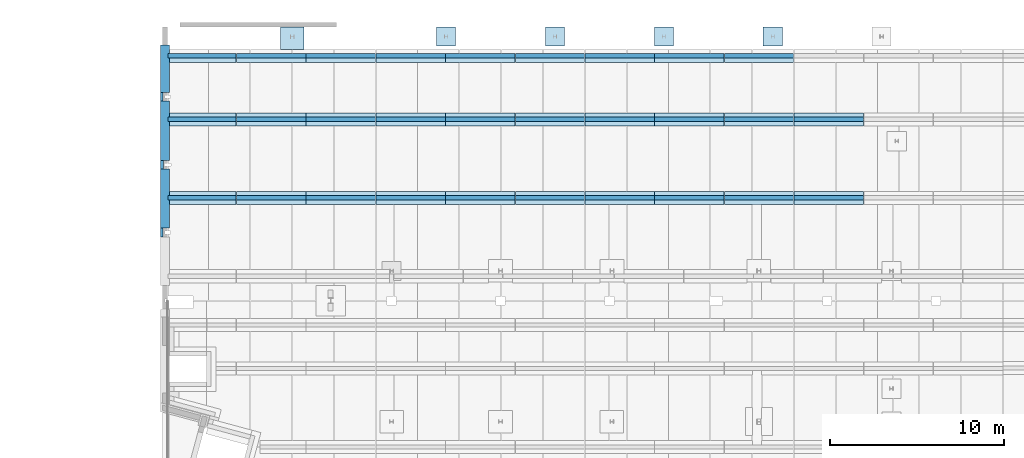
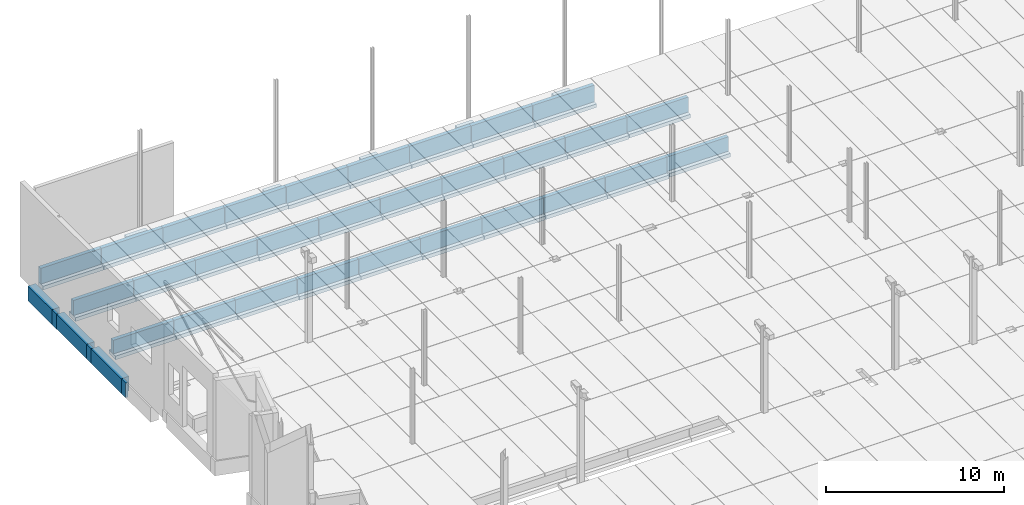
# One storey, part 13 of 59: 69 footings.
"""IFC2X3 building model written with IfcOpenShell, lengths in metres."""

from ifc_helpers import new_model, entity, si_unit, converted_unit, derived_unit, frame, frame_2d, origin, origin_with_axes, place, context, subcontext, project, spatial, rectangle, extrude, material, element, save


model = new_model("IFC2X3")

# Units and contexts
model_context = context("Model", 3, precision=1e-05, world=origin())
body_context = subcontext(model_context, "Body", "Model", "MODEL_VIEW")
ifc_project = project(units=[si_unit("LENGTHUNIT", "METRE"), si_unit("AREAUNIT", "SQUARE_METRE"), si_unit("VOLUMEUNIT", "CUBIC_METRE"), si_unit("MASSUNIT", "GRAM", prefix="KILO"), converted_unit("PLANEANGLEUNIT", "DEGREE", entity("IfcPlaneAngleMeasure", 0.0174532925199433), si_unit("PLANEANGLEUNIT", "RADIAN"), dimensions=[0, 0, 0, 0, 0, 0, 0]), derived_unit("THERMALTRANSMITTANCEUNIT", [(si_unit("POWERUNIT", "WATT"), 1), (si_unit("THERMODYNAMICTEMPERATUREUNIT", "KELVIN"), -1), (si_unit("LENGTHUNIT", "METRE"), -2)]), derived_unit("VOLUMETRICFLOWRATEUNIT", [(si_unit("LENGTHUNIT", "METRE"), 3), (converted_unit("TIMEUNIT", "hour", entity("IfcTimeMeasure", 3600.0), si_unit("TIMEUNIT", "SECOND"), dimensions=[0, 0, 1, 0, 0, 0, 0]), -1), (si_unit("LENGTHUNIT", "METRE"), -1)])], contexts=[model_context])

# Site, building, storey
site_placement = place(None, origin())
site = spatial("IfcSite", under=ifc_project, at=site_placement, Name="TWP_Speiseverteilzentrum SBW VZ II", CompositionType="ELEMENT")
building_placement = place(site_placement, origin())
building = spatial("IfcBuilding", under=site, at=building_placement, Name="Speiseverteilzentrum SBW VZ II", CompositionType="ELEMENT")
storey_placement = place(building_placement, frame((0.0, 0.0, 1.7307)))
storey = spatial("IfcBuildingStorey", under=building, at=storey_placement, Name="EG_Produktion_FFB", CompositionType="ELEMENT", Elevation=1.7307)

# Footings
ifc_material_1 = material(Name="Stahlbeton")
footing_1_placement = place(storey_placement, frame((43.825, 85.0000000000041, -1.8)))
element("IfcFooting", 1, at=footing_1_placement, inside=storey, material=ifc_material_1, Name="Stb.-Einzelfundament", ObjectType="COLUMN_FOUNDATION", PredefinedType="USERDEFINED", context=body_context, shape_type="SweptSolid", body=[
    extrude(rectangle(XDim=1.1, YDim=1.1, at=frame_2d((0.55, 0.55), x_axis=(1.0, 0.0))), origin_with_axes(), (0.0, 0.0, 1.0), 0.3),
])
ifc_material_2 = material(Name="Stahlbeton")
footing_2_placement = place(storey_placement, frame((37.575, 85.0000000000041, -1.8)))
element("IfcFooting", 2, at=footing_2_placement, inside=storey, material=ifc_material_2, Name="Stb.-Einzelfundament", ObjectType="COLUMN_FOUNDATION", PredefinedType="USERDEFINED", context=body_context, shape_type="SweptSolid", body=[
    extrude(rectangle(XDim=1.1, YDim=1.1, at=frame_2d((0.55, 0.55), x_axis=(1.0, 0.0))), origin_with_axes(), (0.0, 0.0, 1.0), 0.3),
])
ifc_material_3 = material(Name="Stahlbeton")
footing_3_placement = place(storey_placement, frame((31.325, 85.0000000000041, -1.8)))
element("IfcFooting", 3, at=footing_3_placement, inside=storey, material=ifc_material_3, Name="Stb.-Einzelfundament", ObjectType="COLUMN_FOUNDATION", PredefinedType="USERDEFINED", context=body_context, shape_type="SweptSolid", body=[
    extrude(rectangle(XDim=1.1, YDim=1.1, at=frame_2d((0.55, 0.55), x_axis=(1.0, 0.0))), origin_with_axes(), (0.0, 0.0, 1.0), 0.3),
])
ifc_material_4 = material(Name="Stahlbeton")
footing_4_placement = place(storey_placement, frame((25.075, 85.0000000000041, -1.8)))
element("IfcFooting", 4, at=footing_4_placement, inside=storey, material=ifc_material_4, Name="Stb.-Einzelfundament", ObjectType="COLUMN_FOUNDATION", PredefinedType="USERDEFINED", context=body_context, shape_type="SweptSolid", body=[
    extrude(rectangle(XDim=1.1, YDim=1.1, at=frame_2d((0.55, 0.55), x_axis=(1.0, 0.0))), origin_with_axes(), (0.0, 0.0, 1.0), 0.3),
])
ifc_material_5 = material(Name="Stahlbeton")
footing_5_placement = place(storey_placement, frame((9.38998437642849, 81.8540323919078, -2.9677), z_axis=(0.0, 0.0, 1.0), x_axis=(0.0, 1.0, 0.0)))
element("IfcFooting", 5, at=footing_5_placement, inside=storey, material=ifc_material_5, Name="Stb.-Streifenfundament", PredefinedType="STRIP_FOOTING", context=body_context, shape_type="SweptSolid", body=[
    extrude(rectangle(XDim=0.149984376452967, YDim=1.0, at=frame_2d((0.0749921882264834, 0.5), x_axis=(1.0, 0.0))), frame((0.0, 0.0, 0.0), z_axis=(1.0, 0.0, 0.0), x_axis=(0.0, 1.0, 0.0)), (0.0, 0.0, 1.0), 0.5),
])
ifc_material_6 = material(Name="Stahlbeton")
footing_6_placement = place(storey_placement, frame((9.73999999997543, 74.5540323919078, -2.9677), z_axis=(0.0, 0.0, 1.0), x_axis=(0.0, 1.0, 0.0)))
element("IfcFooting", 6, at=footing_6_placement, inside=storey, material=ifc_material_6, Name="Stb.-Streifenfundament", PredefinedType="STRIP_FOOTING", context=body_context, shape_type="SweptSolid", body=[
    extrude(rectangle(XDim=0.5, YDim=1.0, at=frame_2d((0.25, 0.5), x_axis=(1.0, 0.0))), frame((0.0, 0.0, 0.0), z_axis=(1.0, 0.0, 0.0), x_axis=(0.0, 1.0, 0.0)), (0.0, 0.0, 1.0), 3.39493784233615),
])
ifc_material_7 = material(Name="Stahlbeton")
footing_7_placement = place(storey_placement, frame((9.73999999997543, 78.4489702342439, -2.9677), z_axis=(0.0, 0.0, 1.0), x_axis=(0.0, 1.0, 0.0)))
element("IfcFooting", 7, at=footing_7_placement, inside=storey, material=ifc_material_7, Name="Stb.-Streifenfundament", PredefinedType="STRIP_FOOTING", context=body_context, shape_type="SweptSolid", body=[
    extrude(rectangle(XDim=0.5, YDim=1.0, at=frame_2d((0.25, 0.5), x_axis=(1.0, 0.0))), frame((0.0, 0.0, 0.0), z_axis=(1.0, 0.0, 0.0), x_axis=(0.0, 1.0, 0.0)), (0.0, 0.0, 1.0), 3.4050621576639),
])
ifc_material_8 = material(Name="Stahlbeton")
footing_8_placement = place(storey_placement, frame((9.3899843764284, 74.0540323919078, -2.9677), z_axis=(0.0, 0.0, 1.0), x_axis=(0.0, 1.0, 0.0)))
element("IfcFooting", 8, at=footing_8_placement, inside=storey, material=ifc_material_8, Name="Stb.-Streifenfundament", PredefinedType="STRIP_FOOTING", context=body_context, shape_type="SweptSolid", body=[
    extrude(rectangle(XDim=0.149984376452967, YDim=1.0, at=frame_2d((0.0749921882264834, 0.5), x_axis=(1.0, 0.0))), frame((0.0, 0.0, 0.0), z_axis=(1.0, 0.0, 0.0), x_axis=(0.0, 1.0, 0.0)), (0.0, 0.0, 1.0), 0.5),
])
ifc_material_9 = material(Name="Stahlbeton")
footing_9_placement = place(storey_placement, frame((9.39864114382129, 77.9489702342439, -2.9677), z_axis=(0.0, 0.0, 1.0), x_axis=(0.0, 1.0, 0.0)))
element("IfcFooting", 9, at=footing_9_placement, inside=storey, material=ifc_material_9, Name="Stb.-Streifenfundament", PredefinedType="STRIP_FOOTING", context=body_context, shape_type="SweptSolid", body=[
    extrude(rectangle(XDim=0.158641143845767, YDim=1.0, at=frame_2d((0.0793205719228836, 0.5), x_axis=(1.0, 0.0))), frame((0.0, 0.0, 0.0), z_axis=(1.0, 0.0, 0.0), x_axis=(0.0, 1.0, 0.0)), (0.0, 0.0, 1.0), 0.5),
])
ifc_material_10 = material(Name="Stahlbeton")
footing_10_placement = place(storey_placement, frame((9.73999999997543, 82.3540323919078, -2.9677), z_axis=(0.0, 0.0, 1.0), x_axis=(0.0, 1.0, 0.0)))
element("IfcFooting", 10, at=footing_10_placement, inside=storey, material=ifc_material_10, Name="Stb.-Streifenfundament", PredefinedType="STRIP_FOOTING", context=body_context, shape_type="SweptSolid", body=[
    extrude(rectangle(XDim=0.5, YDim=1.0, at=frame_2d((0.25, 0.5), x_axis=(1.0, 0.0))), frame((0.0, 0.0, 0.0), z_axis=(1.0, 0.0, 0.0), x_axis=(0.0, 1.0, 0.0)), (0.0, 0.0, 1.0), 2.70870495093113),
])
ifc_material_11 = material(Name="Stahlbetonfertigteil")
footing_11_placement = place(storey_placement, frame((41.5999999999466, 84.325000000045, -1.6)))
element("IfcFooting", 11, at=footing_11_placement, inside=storey, material=ifc_material_11, Name="Stahlbetonfertigteilfundament", PredefinedType="STRIP_FOOTING", context=body_context, shape_type="SweptSolid", body=[
    extrude(rectangle(XDim=0.25, YDim=1.13, at=frame_2d((0.125, 0.565), x_axis=(1.0, 0.0))), frame((0.0, 0.0, 0.0), z_axis=(1.0, 0.0, 0.0), x_axis=(0.0, 1.0, 0.0)), (0.0, 0.0, 1.0), 3.98),
])
ifc_material_12 = material(Name="Stahlbetonfertigteil")
footing_12_placement = place(storey_placement, frame((41.5999999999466, 84.075000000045, -1.85)))
element("IfcFooting", 12, at=footing_12_placement, inside=storey, material=ifc_material_12, Name="Stahlbetonfertigteilfundament", PredefinedType="STRIP_FOOTING", context=body_context, shape_type="SweptSolid", body=[
    extrude(rectangle(XDim=0.5, YDim=0.25, at=frame_2d((0.25, 0.125), x_axis=(1.0, 0.0))), frame((0.0, 0.0, 0.0), z_axis=(1.0, 0.0, 0.0), x_axis=(0.0, 1.0, 0.0)), (0.0, 0.0, 1.0), 3.98),
])
ifc_material_13 = material(Name="Stahlbetonfertigteil")
footing_13_placement = place(storey_placement, frame((37.5999999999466, 84.325000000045, -1.6)))
element("IfcFooting", 13, at=footing_13_placement, inside=storey, material=ifc_material_13, Name="Stahlbetonfertigteilfundament", PredefinedType="STRIP_FOOTING", context=body_context, shape_type="SweptSolid", body=[
    extrude(rectangle(XDim=0.25, YDim=1.13, at=frame_2d((0.125, 0.565), x_axis=(1.0, 0.0))), frame((0.0, 0.0, 0.0), z_axis=(1.0, 0.0, 0.0), x_axis=(0.0, 1.0, 0.0)), (0.0, 0.0, 1.0), 3.98),
])
ifc_material_14 = material(Name="Stahlbetonfertigteil")
footing_14_placement = place(storey_placement, frame((37.5999999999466, 84.075000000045, -1.85)))
element("IfcFooting", 14, at=footing_14_placement, inside=storey, material=ifc_material_14, Name="Stahlbetonfertigteilfundament", PredefinedType="STRIP_FOOTING", context=body_context, shape_type="SweptSolid", body=[
    extrude(rectangle(XDim=0.5, YDim=0.25, at=frame_2d((0.25, 0.125), x_axis=(1.0, 0.0))), frame((0.0, 0.0, 0.0), z_axis=(1.0, 0.0, 0.0), x_axis=(0.0, 1.0, 0.0)), (0.0, 0.0, 1.0), 3.98),
])
ifc_material_15 = material(Name="Stahlbetonfertigteil")
footing_15_placement = place(storey_placement, frame((33.5999999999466, 84.325000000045, -1.6)))
element("IfcFooting", 15, at=footing_15_placement, inside=storey, material=ifc_material_15, Name="Stahlbetonfertigteilfundament", PredefinedType="STRIP_FOOTING", context=body_context, shape_type="SweptSolid", body=[
    extrude(rectangle(XDim=0.25, YDim=1.13, at=frame_2d((0.125, 0.565), x_axis=(1.0, 0.0))), frame((0.0, 0.0, 0.0), z_axis=(1.0, 0.0, 0.0), x_axis=(0.0, 1.0, 0.0)), (0.0, 0.0, 1.0), 3.98),
])
ifc_material_16 = material(Name="Stahlbetonfertigteil")
footing_16_placement = place(storey_placement, frame((33.5999999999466, 84.075000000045, -1.85)))
element("IfcFooting", 16, at=footing_16_placement, inside=storey, material=ifc_material_16, Name="Stahlbetonfertigteilfundament", PredefinedType="STRIP_FOOTING", context=body_context, shape_type="SweptSolid", body=[
    extrude(rectangle(XDim=0.5, YDim=0.25, at=frame_2d((0.25, 0.125), x_axis=(1.0, 0.0))), frame((0.0, 0.0, 0.0), z_axis=(1.0, 0.0, 0.0), x_axis=(0.0, 1.0, 0.0)), (0.0, 0.0, 1.0), 3.98),
])
ifc_material_17 = material(Name="Stahlbetonfertigteil")
footing_17_placement = place(storey_placement, frame((29.5999999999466, 84.325000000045, -1.6)))
element("IfcFooting", 17, at=footing_17_placement, inside=storey, material=ifc_material_17, Name="Stahlbetonfertigteilfundament", PredefinedType="STRIP_FOOTING", context=body_context, shape_type="SweptSolid", body=[
    extrude(rectangle(XDim=0.25, YDim=1.13, at=frame_2d((0.125, 0.565), x_axis=(1.0, 0.0))), frame((0.0, 0.0, 0.0), z_axis=(1.0, 0.0, 0.0), x_axis=(0.0, 1.0, 0.0)), (0.0, 0.0, 1.0), 3.98),
])
ifc_material_18 = material(Name="Stahlbetonfertigteil")
footing_18_placement = place(storey_placement, frame((29.5999999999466, 84.075000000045, -1.85)))
element("IfcFooting", 18, at=footing_18_placement, inside=storey, material=ifc_material_18, Name="Stahlbetonfertigteilfundament", PredefinedType="STRIP_FOOTING", context=body_context, shape_type="SweptSolid", body=[
    extrude(rectangle(XDim=0.5, YDim=0.25, at=frame_2d((0.25, 0.125), x_axis=(1.0, 0.0))), frame((0.0, 0.0, 0.0), z_axis=(1.0, 0.0, 0.0), x_axis=(0.0, 1.0, 0.0)), (0.0, 0.0, 1.0), 3.98),
])
ifc_material_19 = material(Name="Stahlbetonfertigteil")
footing_19_placement = place(storey_placement, frame((25.5999999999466, 84.325000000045, -1.6)))
element("IfcFooting", 19, at=footing_19_placement, inside=storey, material=ifc_material_19, Name="Stahlbetonfertigteilfundament", PredefinedType="STRIP_FOOTING", context=body_context, shape_type="SweptSolid", body=[
    extrude(rectangle(XDim=0.25, YDim=1.13, at=frame_2d((0.125, 0.565), x_axis=(1.0, 0.0))), frame((0.0, 0.0, 0.0), z_axis=(1.0, 0.0, 0.0), x_axis=(0.0, 1.0, 0.0)), (0.0, 0.0, 1.0), 3.98),
])
ifc_material_20 = material(Name="Stahlbetonfertigteil")
footing_20_placement = place(storey_placement, frame((25.5999999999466, 84.075000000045, -1.85)))
element("IfcFooting", 20, at=footing_20_placement, inside=storey, material=ifc_material_20, Name="Stahlbetonfertigteilfundament", PredefinedType="STRIP_FOOTING", context=body_context, shape_type="SweptSolid", body=[
    extrude(rectangle(XDim=0.5, YDim=0.25, at=frame_2d((0.25, 0.125), x_axis=(1.0, 0.0))), frame((0.0, 0.0, 0.0), z_axis=(1.0, 0.0, 0.0), x_axis=(0.0, 1.0, 0.0)), (0.0, 0.0, 1.0), 3.98),
])
ifc_material_21 = material(Name="Stahlbetonfertigteil")
footing_21_placement = place(storey_placement, frame((21.5999999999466, 84.325000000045, -1.55)))
element("IfcFooting", 21, at=footing_21_placement, inside=storey, material=ifc_material_21, Name="Stahlbetonfertigteilfundament", PredefinedType="STRIP_FOOTING", context=body_context, shape_type="SweptSolid", body=[
    extrude(rectangle(XDim=0.25, YDim=1.08, at=frame_2d((0.125, 0.54), x_axis=(1.0, 0.0))), frame((0.0, 0.0, 0.0), z_axis=(1.0, 0.0, 0.0), x_axis=(0.0, 1.0, 0.0)), (0.0, 0.0, 1.0), 3.98),
])
ifc_material_22 = material(Name="Stahlbetonfertigteil")
footing_22_placement = place(storey_placement, frame((21.5999999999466, 84.075000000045, -1.8)))
element("IfcFooting", 22, at=footing_22_placement, inside=storey, material=ifc_material_22, Name="Stahlbetonfertigteilfundament", PredefinedType="STRIP_FOOTING", context=body_context, shape_type="SweptSolid", body=[
    extrude(rectangle(XDim=0.5, YDim=0.25, at=frame_2d((0.25, 0.125), x_axis=(1.0, 0.0))), frame((0.0, 0.0, 0.0), z_axis=(1.0, 0.0, 0.0), x_axis=(0.0, 1.0, 0.0)), (0.0, 0.0, 1.0), 3.98),
])
ifc_material_23 = material(Name="Stahlbetonfertigteil")
footing_23_placement = place(storey_placement, frame((17.5999999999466, 84.325000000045, -1.55)))
element("IfcFooting", 23, at=footing_23_placement, inside=storey, material=ifc_material_23, Name="Stahlbetonfertigteilfundament", PredefinedType="STRIP_FOOTING", context=body_context, shape_type="SweptSolid", body=[
    extrude(rectangle(XDim=0.25, YDim=1.08, at=frame_2d((0.125, 0.54), x_axis=(1.0, 0.0))), frame((0.0, 0.0, 0.0), z_axis=(1.0, 0.0, 0.0), x_axis=(0.0, 1.0, 0.0)), (0.0, 0.0, 1.0), 3.98),
])
ifc_material_24 = material(Name="Stahlbetonfertigteil")
footing_24_placement = place(storey_placement, frame((17.5999999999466, 84.075000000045, -1.8)))
element("IfcFooting", 24, at=footing_24_placement, inside=storey, material=ifc_material_24, Name="Stahlbetonfertigteilfundament", PredefinedType="STRIP_FOOTING", context=body_context, shape_type="SweptSolid", body=[
    extrude(rectangle(XDim=0.5, YDim=0.25, at=frame_2d((0.25, 0.125), x_axis=(1.0, 0.0))), frame((0.0, 0.0, 0.0), z_axis=(1.0, 0.0, 0.0), x_axis=(0.0, 1.0, 0.0)), (0.0, 0.0, 1.0), 3.98),
])
ifc_material_25 = material(Name="Stahlbetonfertigteil")
footing_25_placement = place(storey_placement, frame((13.5999999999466, 84.325000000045, -1.55)))
element("IfcFooting", 25, at=footing_25_placement, inside=storey, material=ifc_material_25, Name="Stahlbetonfertigteilfundament", PredefinedType="STRIP_FOOTING", context=body_context, shape_type="SweptSolid", body=[
    extrude(rectangle(XDim=0.25, YDim=1.08, at=frame_2d((0.125, 0.54), x_axis=(1.0, 0.0))), frame((0.0, 0.0, 0.0), z_axis=(1.0, 0.0, 0.0), x_axis=(0.0, 1.0, 0.0)), (0.0, 0.0, 1.0), 3.98),
])
ifc_material_26 = material(Name="Stahlbetonfertigteil")
footing_26_placement = place(storey_placement, frame((13.5999999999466, 84.075000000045, -1.8)))
element("IfcFooting", 26, at=footing_26_placement, inside=storey, material=ifc_material_26, Name="Stahlbetonfertigteilfundament", PredefinedType="STRIP_FOOTING", context=body_context, shape_type="SweptSolid", body=[
    extrude(rectangle(XDim=0.5, YDim=0.25, at=frame_2d((0.25, 0.125), x_axis=(1.0, 0.0))), frame((0.0, 0.0, 0.0), z_axis=(1.0, 0.0, 0.0), x_axis=(0.0, 1.0, 0.0)), (0.0, 0.0, 1.0), 3.98),
])
ifc_material_27 = material(Name="Stahlbetonfertigteil")
footing_27_placement = place(storey_placement, frame((9.65999999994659, 84.075000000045, -1.8)))
element("IfcFooting", 27, at=footing_27_placement, inside=storey, material=ifc_material_27, Name="Stahlbetonfertigteilfundament", PredefinedType="STRIP_FOOTING", context=body_context, shape_type="SweptSolid", body=[
    extrude(rectangle(XDim=0.5, YDim=0.25, at=frame_2d((0.25, 0.125), x_axis=(1.0, 0.0))), frame((0.0, 0.0, 0.0), z_axis=(1.0, 0.0, 0.0), x_axis=(0.0, 1.0, 0.0)), (0.0, 0.0, 1.0), 3.92),
])
ifc_material_28 = material(Name="Stahlbetonfertigteil")
footing_28_placement = place(storey_placement, frame((9.65999999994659, 84.325000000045, -1.55)))
element("IfcFooting", 28, at=footing_28_placement, inside=storey, material=ifc_material_28, Name="Stahlbetonfertigteilfundament", PredefinedType="STRIP_FOOTING", context=body_context, shape_type="SweptSolid", body=[
    extrude(rectangle(XDim=0.25, YDim=1.08, at=frame_2d((0.125, 0.54), x_axis=(1.0, 0.0))), frame((0.0, 0.0, 0.0), z_axis=(1.0, 0.0, 0.0), x_axis=(0.0, 1.0, 0.0)), (0.0, 0.0, 1.0), 3.92),
])
ifc_material_29 = material(Name="Stahlbetonfertigteil")
footing_29_placement = place(storey_placement, frame((45.5999999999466, 75.9251031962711, -1.7)))
element("IfcFooting", 29, at=footing_29_placement, inside=storey, material=ifc_material_29, Name="Stahlbetonfertigteilfundament", PredefinedType="STRIP_FOOTING", context=body_context, shape_type="SweptSolid", body=[
    extrude(rectangle(XDim=0.75, YDim=0.25, at=frame_2d((0.375, 0.125), x_axis=(1.0, 0.0))), frame((0.0, 0.0, 0.0), z_axis=(1.0, 0.0, 0.0), x_axis=(0.0, 1.0, 0.0)), (0.0, 0.0, 1.0), 3.98),
])
ifc_material_30 = material(Name="Stahlbetonfertigteil")
footing_30_placement = place(storey_placement, frame((45.5999999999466, 76.1751031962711, -1.45)))
element("IfcFooting", 30, at=footing_30_placement, inside=storey, material=ifc_material_30, Name="Stahlbetonfertigteilfundament", PredefinedType="STRIP_FOOTING", context=body_context, shape_type="SweptSolid", body=[
    extrude(rectangle(XDim=0.25, YDim=0.98, at=frame_2d((0.125, 0.49), x_axis=(1.0, 0.0))), frame((0.0, 0.0, 0.0), z_axis=(1.0, 0.0, 0.0), x_axis=(0.0, 1.0, 0.0)), (0.0, 0.0, 1.0), 3.98),
])
ifc_material_31 = material(Name="Stahlbetonfertigteil")
footing_31_placement = place(storey_placement, frame((37.5999999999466, 76.1751031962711, -1.55)))
element("IfcFooting", 31, at=footing_31_placement, inside=storey, material=ifc_material_31, Name="Stahlbetonfertigteilfundament", PredefinedType="STRIP_FOOTING", context=body_context, shape_type="SweptSolid", body=[
    extrude(rectangle(XDim=0.25, YDim=1.08, at=frame_2d((0.125, 0.54), x_axis=(1.0, 0.0))), frame((0.0, 0.0, 0.0), z_axis=(1.0, 0.0, 0.0), x_axis=(0.0, 1.0, 0.0)), (0.0, 0.0, 1.0), 3.98),
])
ifc_material_32 = material(Name="Stahlbetonfertigteil")
footing_32_placement = place(storey_placement, frame((33.5999999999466, 76.1751031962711, -1.55)))
element("IfcFooting", 32, at=footing_32_placement, inside=storey, material=ifc_material_32, Name="Stahlbetonfertigteilfundament", PredefinedType="STRIP_FOOTING", context=body_context, shape_type="SweptSolid", body=[
    extrude(rectangle(XDim=0.25, YDim=1.08, at=frame_2d((0.125, 0.54), x_axis=(1.0, 0.0))), frame((0.0, 0.0, 0.0), z_axis=(1.0, 0.0, 0.0), x_axis=(0.0, 1.0, 0.0)), (0.0, 0.0, 1.0), 3.98),
])
ifc_material_33 = material(Name="Stahlbetonfertigteil")
footing_33_placement = place(storey_placement, frame((41.5999999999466, 76.1751031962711, -1.55)))
element("IfcFooting", 33, at=footing_33_placement, inside=storey, material=ifc_material_33, Name="Stahlbetonfertigteilfundament", PredefinedType="STRIP_FOOTING", context=body_context, shape_type="SweptSolid", body=[
    extrude(rectangle(XDim=0.25, YDim=1.08, at=frame_2d((0.125, 0.54), x_axis=(1.0, 0.0))), frame((0.0, 0.0, 0.0), z_axis=(1.0, 0.0, 0.0), x_axis=(0.0, 1.0, 0.0)), (0.0, 0.0, 1.0), 3.98),
])
ifc_material_34 = material(Name="Stahlbetonfertigteil")
footing_34_placement = place(storey_placement, frame((29.5999999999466, 76.1751031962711, -1.55)))
element("IfcFooting", 34, at=footing_34_placement, inside=storey, material=ifc_material_34, Name="Stahlbetonfertigteilfundament", PredefinedType="STRIP_FOOTING", context=body_context, shape_type="SweptSolid", body=[
    extrude(rectangle(XDim=0.25, YDim=1.08, at=frame_2d((0.125, 0.54), x_axis=(1.0, 0.0))), frame((0.0, 0.0, 0.0), z_axis=(1.0, 0.0, 0.0), x_axis=(0.0, 1.0, 0.0)), (0.0, 0.0, 1.0), 3.98),
])
ifc_material_35 = material(Name="Stahlbetonfertigteil")
footing_35_placement = place(storey_placement, frame((41.5999999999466, 75.9251031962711, -1.8)))
element("IfcFooting", 35, at=footing_35_placement, inside=storey, material=ifc_material_35, Name="Stahlbetonfertigteilfundament", PredefinedType="STRIP_FOOTING", context=body_context, shape_type="SweptSolid", body=[
    extrude(rectangle(XDim=0.75, YDim=0.25, at=frame_2d((0.375, 0.125), x_axis=(1.0, 0.0))), frame((0.0, 0.0, 0.0), z_axis=(1.0, 0.0, 0.0), x_axis=(0.0, 1.0, 0.0)), (0.0, 0.0, 1.0), 3.98),
])
ifc_material_36 = material(Name="Stahlbetonfertigteil")
footing_36_placement = place(storey_placement, frame((37.5999999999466, 75.9251031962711, -1.8)))
element("IfcFooting", 36, at=footing_36_placement, inside=storey, material=ifc_material_36, Name="Stahlbetonfertigteilfundament", PredefinedType="STRIP_FOOTING", context=body_context, shape_type="SweptSolid", body=[
    extrude(rectangle(XDim=0.75, YDim=0.25, at=frame_2d((0.375, 0.125), x_axis=(1.0, 0.0))), frame((0.0, 0.0, 0.0), z_axis=(1.0, 0.0, 0.0), x_axis=(0.0, 1.0, 0.0)), (0.0, 0.0, 1.0), 3.98),
])
ifc_material_37 = material(Name="Stahlbetonfertigteil")
footing_37_placement = place(storey_placement, frame((33.5999999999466, 75.9251031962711, -1.8)))
element("IfcFooting", 37, at=footing_37_placement, inside=storey, material=ifc_material_37, Name="Stahlbetonfertigteilfundament", PredefinedType="STRIP_FOOTING", context=body_context, shape_type="SweptSolid", body=[
    extrude(rectangle(XDim=0.75, YDim=0.25, at=frame_2d((0.375, 0.125), x_axis=(1.0, 0.0))), frame((0.0, 0.0, 0.0), z_axis=(1.0, 0.0, 0.0), x_axis=(0.0, 1.0, 0.0)), (0.0, 0.0, 1.0), 3.98),
])
ifc_material_38 = material(Name="Stahlbetonfertigteil")
footing_38_placement = place(storey_placement, frame((29.5999999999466, 75.9251031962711, -1.8)))
element("IfcFooting", 38, at=footing_38_placement, inside=storey, material=ifc_material_38, Name="Stahlbetonfertigteilfundament", PredefinedType="STRIP_FOOTING", context=body_context, shape_type="SweptSolid", body=[
    extrude(rectangle(XDim=0.75, YDim=0.25, at=frame_2d((0.375, 0.125), x_axis=(1.0, 0.0))), frame((0.0, 0.0, 0.0), z_axis=(1.0, 0.0, 0.0), x_axis=(0.0, 1.0, 0.0)), (0.0, 0.0, 1.0), 3.98),
])
ifc_material_39 = material(Name="Stahlbetonfertigteil")
footing_39_placement = place(storey_placement, frame((21.5999999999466, 76.1751031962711, -1.5)))
element("IfcFooting", 39, at=footing_39_placement, inside=storey, material=ifc_material_39, Name="Stahlbetonfertigteilfundament", PredefinedType="STRIP_FOOTING", context=body_context, shape_type="SweptSolid", body=[
    extrude(rectangle(XDim=0.25, YDim=1.03, at=frame_2d((0.125, 0.515), x_axis=(1.0, 0.0))), frame((0.0, 0.0, 0.0), z_axis=(1.0, 0.0, 0.0), x_axis=(0.0, 1.0, 0.0)), (0.0, 0.0, 1.0), 3.98),
])
ifc_material_40 = material(Name="Stahlbetonfertigteil")
footing_40_placement = place(storey_placement, frame((25.5999999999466, 76.1751031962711, -1.5)))
element("IfcFooting", 40, at=footing_40_placement, inside=storey, material=ifc_material_40, Name="Stahlbetonfertigteilfundament", PredefinedType="STRIP_FOOTING", context=body_context, shape_type="SweptSolid", body=[
    extrude(rectangle(XDim=0.25, YDim=1.03, at=frame_2d((0.125, 0.515), x_axis=(1.0, 0.0))), frame((0.0, 0.0, 0.0), z_axis=(1.0, 0.0, 0.0), x_axis=(0.0, 1.0, 0.0)), (0.0, 0.0, 1.0), 3.98),
])
ifc_material_41 = material(Name="Stahlbetonfertigteil")
footing_41_placement = place(storey_placement, frame((25.5999999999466, 75.9251031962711, -1.75)))
element("IfcFooting", 41, at=footing_41_placement, inside=storey, material=ifc_material_41, Name="Stahlbetonfertigteilfundament", PredefinedType="STRIP_FOOTING", context=body_context, shape_type="SweptSolid", body=[
    extrude(rectangle(XDim=0.75, YDim=0.25, at=frame_2d((0.375, 0.125), x_axis=(1.0, 0.0))), frame((0.0, 0.0, 0.0), z_axis=(1.0, 0.0, 0.0), x_axis=(0.0, 1.0, 0.0)), (0.0, 0.0, 1.0), 3.98),
])
ifc_material_42 = material(Name="Stahlbetonfertigteil")
footing_42_placement = place(storey_placement, frame((21.5999999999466, 75.9251031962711, -1.75)))
element("IfcFooting", 42, at=footing_42_placement, inside=storey, material=ifc_material_42, Name="Stahlbetonfertigteilfundament", PredefinedType="STRIP_FOOTING", context=body_context, shape_type="SweptSolid", body=[
    extrude(rectangle(XDim=0.75, YDim=0.25, at=frame_2d((0.375, 0.125), x_axis=(1.0, 0.0))), frame((0.0, 0.0, 0.0), z_axis=(1.0, 0.0, 0.0), x_axis=(0.0, 1.0, 0.0)), (0.0, 0.0, 1.0), 3.98),
])
ifc_material_43 = material(Name="Stahlbetonfertigteil")
footing_43_placement = place(storey_placement, frame((17.5999999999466, 76.1751031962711, -1.45)))
element("IfcFooting", 43, at=footing_43_placement, inside=storey, material=ifc_material_43, Name="Stahlbetonfertigteilfundament", PredefinedType="STRIP_FOOTING", context=body_context, shape_type="SweptSolid", body=[
    extrude(rectangle(XDim=0.25, YDim=0.98, at=frame_2d((0.125, 0.49), x_axis=(1.0, 0.0))), frame((0.0, 0.0, 0.0), z_axis=(1.0, 0.0, 0.0), x_axis=(0.0, 1.0, 0.0)), (0.0, 0.0, 1.0), 3.98),
])
ifc_material_44 = material(Name="Stahlbetonfertigteil")
footing_44_placement = place(storey_placement, frame((17.5999999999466, 75.9251031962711, -1.7)))
element("IfcFooting", 44, at=footing_44_placement, inside=storey, material=ifc_material_44, Name="Stahlbetonfertigteilfundament", PredefinedType="STRIP_FOOTING", context=body_context, shape_type="SweptSolid", body=[
    extrude(rectangle(XDim=0.75, YDim=0.25, at=frame_2d((0.375, 0.125), x_axis=(1.0, 0.0))), frame((0.0, 0.0, 0.0), z_axis=(1.0, 0.0, 0.0), x_axis=(0.0, 1.0, 0.0)), (0.0, 0.0, 1.0), 3.98),
])
ifc_material_45 = material(Name="Stahlbetonfertigteil")
footing_45_placement = place(storey_placement, frame((13.5999999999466, 75.9251031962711, -1.65)))
element("IfcFooting", 45, at=footing_45_placement, inside=storey, material=ifc_material_45, Name="Stahlbetonfertigteilfundament", PredefinedType="STRIP_FOOTING", context=body_context, shape_type="SweptSolid", body=[
    extrude(rectangle(XDim=0.75, YDim=0.25, at=frame_2d((0.375, 0.125), x_axis=(1.0, 0.0))), frame((0.0, 0.0, 0.0), z_axis=(1.0, 0.0, 0.0), x_axis=(0.0, 1.0, 0.0)), (0.0, 0.0, 1.0), 3.98),
])
ifc_material_46 = material(Name="Stahlbetonfertigteil")
footing_46_placement = place(storey_placement, frame((13.5999999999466, 76.1751031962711, -1.4)))
element("IfcFooting", 46, at=footing_46_placement, inside=storey, material=ifc_material_46, Name="Stahlbetonfertigteilfundament", PredefinedType="STRIP_FOOTING", context=body_context, shape_type="SweptSolid", body=[
    extrude(rectangle(XDim=0.25, YDim=0.93, at=frame_2d((0.125, 0.465), x_axis=(1.0, 0.0))), frame((0.0, 0.0, 0.0), z_axis=(1.0, 0.0, 0.0), x_axis=(0.0, 1.0, 0.0)), (0.0, 0.0, 1.0), 3.98),
])
ifc_material_47 = material(Name="Stahlbetonfertigteil")
footing_47_placement = place(storey_placement, frame((45.5999999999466, 80.6751031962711, -1.5)))
element("IfcFooting", 47, at=footing_47_placement, inside=storey, material=ifc_material_47, Name="Stahlbetonfertigteilfundament", PredefinedType="STRIP_FOOTING", context=body_context, shape_type="SweptSolid", body=[
    extrude(rectangle(XDim=0.25, YDim=1.03, at=frame_2d((0.125, 0.515), x_axis=(1.0, 0.0))), frame((0.0, 0.0, 0.0), z_axis=(1.0, 0.0, 0.0), x_axis=(0.0, 1.0, 0.0)), (0.0, 0.0, 1.0), 3.98),
])
ifc_material_48 = material(Name="Stahlbetonfertigteil")
footing_48_placement = place(storey_placement, frame((13.5999999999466, 80.4251031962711, -1.75)))
element("IfcFooting", 48, at=footing_48_placement, inside=storey, material=ifc_material_48, Name="Stahlbetonfertigteilfundament", PredefinedType="STRIP_FOOTING", context=body_context, shape_type="SweptSolid", body=[
    extrude(rectangle(XDim=0.75, YDim=0.25, at=frame_2d((0.375, 0.125), x_axis=(1.0, 0.0))), frame((0.0, 0.0, 0.0), z_axis=(1.0, 0.0, 0.0), x_axis=(0.0, 1.0, 0.0)), (0.0, 0.0, 1.0), 3.98),
])
ifc_material_49 = material(Name="Stahlbetonfertigteil")
footing_49_placement = place(storey_placement, frame((45.5999999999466, 80.4251031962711, -1.75)))
element("IfcFooting", 49, at=footing_49_placement, inside=storey, material=ifc_material_49, Name="Stahlbetonfertigteilfundament", PredefinedType="STRIP_FOOTING", context=body_context, shape_type="SweptSolid", body=[
    extrude(rectangle(XDim=0.75, YDim=0.25, at=frame_2d((0.375, 0.125), x_axis=(1.0, 0.0))), frame((0.0, 0.0, 0.0), z_axis=(1.0, 0.0, 0.0), x_axis=(0.0, 1.0, 0.0)), (0.0, 0.0, 1.0), 3.98),
])
ifc_material_50 = material(Name="Stahlbetonfertigteil")
footing_50_placement = place(storey_placement, frame((17.5999999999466, 80.4251031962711, -1.75)))
element("IfcFooting", 50, at=footing_50_placement, inside=storey, material=ifc_material_50, Name="Stahlbetonfertigteilfundament", PredefinedType="STRIP_FOOTING", context=body_context, shape_type="SweptSolid", body=[
    extrude(rectangle(XDim=0.75, YDim=0.25, at=frame_2d((0.375, 0.125), x_axis=(1.0, 0.0))), frame((0.0, 0.0, 0.0), z_axis=(1.0, 0.0, 0.0), x_axis=(0.0, 1.0, 0.0)), (0.0, 0.0, 1.0), 3.98),
])
ifc_material_51 = material(Name="Stahlbetonfertigteil")
footing_51_placement = place(storey_placement, frame((41.5999999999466, 80.6751031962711, -1.55)))
element("IfcFooting", 51, at=footing_51_placement, inside=storey, material=ifc_material_51, Name="Stahlbetonfertigteilfundament", PredefinedType="STRIP_FOOTING", context=body_context, shape_type="SweptSolid", body=[
    extrude(rectangle(XDim=0.25, YDim=1.08, at=frame_2d((0.125, 0.54), x_axis=(1.0, 0.0))), frame((0.0, 0.0, 0.0), z_axis=(1.0, 0.0, 0.0), x_axis=(0.0, 1.0, 0.0)), (0.0, 0.0, 1.0), 3.98),
])
ifc_material_52 = material(Name="Stahlbetonfertigteil")
footing_52_placement = place(storey_placement, frame((41.5999999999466, 80.4251031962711, -1.8)))
element("IfcFooting", 52, at=footing_52_placement, inside=storey, material=ifc_material_52, Name="Stahlbetonfertigteilfundament", PredefinedType="STRIP_FOOTING", context=body_context, shape_type="SweptSolid", body=[
    extrude(rectangle(XDim=0.75, YDim=0.25, at=frame_2d((0.375, 0.125), x_axis=(1.0, 0.0))), frame((0.0, 0.0, 0.0), z_axis=(1.0, 0.0, 0.0), x_axis=(0.0, 1.0, 0.0)), (0.0, 0.0, 1.0), 3.98),
])
ifc_material_53 = material(Name="Stahlbetonfertigteil")
footing_53_placement = place(storey_placement, frame((33.5999999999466, 80.6751031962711, -1.55)))
element("IfcFooting", 53, at=footing_53_placement, inside=storey, material=ifc_material_53, Name="Stahlbetonfertigteilfundament", PredefinedType="STRIP_FOOTING", context=body_context, shape_type="SweptSolid", body=[
    extrude(rectangle(XDim=0.25, YDim=1.08, at=frame_2d((0.125, 0.54), x_axis=(1.0, 0.0))), frame((0.0, 0.0, 0.0), z_axis=(1.0, 0.0, 0.0), x_axis=(0.0, 1.0, 0.0)), (0.0, 0.0, 1.0), 3.98),
])
ifc_material_54 = material(Name="Stahlbetonfertigteil")
footing_54_placement = place(storey_placement, frame((37.5999999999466, 80.6751031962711, -1.55)))
element("IfcFooting", 54, at=footing_54_placement, inside=storey, material=ifc_material_54, Name="Stahlbetonfertigteilfundament", PredefinedType="STRIP_FOOTING", context=body_context, shape_type="SweptSolid", body=[
    extrude(rectangle(XDim=0.25, YDim=1.08, at=frame_2d((0.125, 0.54), x_axis=(1.0, 0.0))), frame((0.0, 0.0, 0.0), z_axis=(1.0, 0.0, 0.0), x_axis=(0.0, 1.0, 0.0)), (0.0, 0.0, 1.0), 3.98),
])
ifc_material_55 = material(Name="Stahlbetonfertigteil")
footing_55_placement = place(storey_placement, frame((37.5999999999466, 80.4251031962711, -1.8)))
element("IfcFooting", 55, at=footing_55_placement, inside=storey, material=ifc_material_55, Name="Stahlbetonfertigteilfundament", PredefinedType="STRIP_FOOTING", context=body_context, shape_type="SweptSolid", body=[
    extrude(rectangle(XDim=0.75, YDim=0.25, at=frame_2d((0.375, 0.125), x_axis=(1.0, 0.0))), frame((0.0, 0.0, 0.0), z_axis=(1.0, 0.0, 0.0), x_axis=(0.0, 1.0, 0.0)), (0.0, 0.0, 1.0), 3.98),
])
ifc_material_56 = material(Name="Stahlbetonfertigteil")
footing_56_placement = place(storey_placement, frame((33.5999999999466, 80.4251031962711, -1.8)))
element("IfcFooting", 56, at=footing_56_placement, inside=storey, material=ifc_material_56, Name="Stahlbetonfertigteilfundament", PredefinedType="STRIP_FOOTING", context=body_context, shape_type="SweptSolid", body=[
    extrude(rectangle(XDim=0.75, YDim=0.25, at=frame_2d((0.375, 0.125), x_axis=(1.0, 0.0))), frame((0.0, 0.0, 0.0), z_axis=(1.0, 0.0, 0.0), x_axis=(0.0, 1.0, 0.0)), (0.0, 0.0, 1.0), 3.98),
])
ifc_material_57 = material(Name="Stahlbetonfertigteil")
footing_57_placement = place(storey_placement, frame((29.5999999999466, 80.6751031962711, -1.55)))
element("IfcFooting", 57, at=footing_57_placement, inside=storey, material=ifc_material_57, Name="Stahlbetonfertigteilfundament", PredefinedType="STRIP_FOOTING", context=body_context, shape_type="SweptSolid", body=[
    extrude(rectangle(XDim=0.25, YDim=1.08, at=frame_2d((0.125, 0.54), x_axis=(1.0, 0.0))), frame((0.0, 0.0, 0.0), z_axis=(1.0, 0.0, 0.0), x_axis=(0.0, 1.0, 0.0)), (0.0, 0.0, 1.0), 3.98),
])
ifc_material_58 = material(Name="Stahlbetonfertigteil")
footing_58_placement = place(storey_placement, frame((29.5999999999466, 80.4251031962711, -1.8)))
element("IfcFooting", 58, at=footing_58_placement, inside=storey, material=ifc_material_58, Name="Stahlbetonfertigteilfundament", PredefinedType="STRIP_FOOTING", context=body_context, shape_type="SweptSolid", body=[
    extrude(rectangle(XDim=0.75, YDim=0.25, at=frame_2d((0.375, 0.125), x_axis=(1.0, 0.0))), frame((0.0, 0.0, 0.0), z_axis=(1.0, 0.0, 0.0), x_axis=(0.0, 1.0, 0.0)), (0.0, 0.0, 1.0), 3.98),
])
ifc_material_59 = material(Name="Stahlbetonfertigteil")
footing_59_placement = place(storey_placement, frame((21.5999999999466, 80.6751031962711, -1.55)))
element("IfcFooting", 59, at=footing_59_placement, inside=storey, material=ifc_material_59, Name="Stahlbetonfertigteilfundament", PredefinedType="STRIP_FOOTING", context=body_context, shape_type="SweptSolid", body=[
    extrude(rectangle(XDim=0.25, YDim=1.08, at=frame_2d((0.125, 0.54), x_axis=(1.0, 0.0))), frame((0.0, 0.0, 0.0), z_axis=(1.0, 0.0, 0.0), x_axis=(0.0, 1.0, 0.0)), (0.0, 0.0, 1.0), 3.98),
])
ifc_material_60 = material(Name="Stahlbetonfertigteil")
footing_60_placement = place(storey_placement, frame((25.5999999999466, 80.6751031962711, -1.55)))
element("IfcFooting", 60, at=footing_60_placement, inside=storey, material=ifc_material_60, Name="Stahlbetonfertigteilfundament", PredefinedType="STRIP_FOOTING", context=body_context, shape_type="SweptSolid", body=[
    extrude(rectangle(XDim=0.25, YDim=1.08, at=frame_2d((0.125, 0.54), x_axis=(1.0, 0.0))), frame((0.0, 0.0, 0.0), z_axis=(1.0, 0.0, 0.0), x_axis=(0.0, 1.0, 0.0)), (0.0, 0.0, 1.0), 3.98),
])
ifc_material_61 = material(Name="Stahlbetonfertigteil")
footing_61_placement = place(storey_placement, frame((21.5999999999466, 80.4251031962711, -1.8)))
element("IfcFooting", 61, at=footing_61_placement, inside=storey, material=ifc_material_61, Name="Stahlbetonfertigteilfundament", PredefinedType="STRIP_FOOTING", context=body_context, shape_type="SweptSolid", body=[
    extrude(rectangle(XDim=0.75, YDim=0.25, at=frame_2d((0.375, 0.125), x_axis=(1.0, 0.0))), frame((0.0, 0.0, 0.0), z_axis=(1.0, 0.0, 0.0), x_axis=(0.0, 1.0, 0.0)), (0.0, 0.0, 1.0), 3.98),
])
ifc_material_62 = material(Name="Stahlbetonfertigteil")
footing_62_placement = place(storey_placement, frame((25.5999999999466, 80.4251031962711, -1.8)))
element("IfcFooting", 62, at=footing_62_placement, inside=storey, material=ifc_material_62, Name="Stahlbetonfertigteilfundament", PredefinedType="STRIP_FOOTING", context=body_context, shape_type="SweptSolid", body=[
    extrude(rectangle(XDim=0.75, YDim=0.25, at=frame_2d((0.375, 0.125), x_axis=(1.0, 0.0))), frame((0.0, 0.0, 0.0), z_axis=(1.0, 0.0, 0.0), x_axis=(0.0, 1.0, 0.0)), (0.0, 0.0, 1.0), 3.98),
])
ifc_material_63 = material(Name="Stahlbetonfertigteil")
footing_63_placement = place(storey_placement, frame((17.5999999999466, 80.6751031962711, -1.5)))
element("IfcFooting", 63, at=footing_63_placement, inside=storey, material=ifc_material_63, Name="Stahlbetonfertigteilfundament", PredefinedType="STRIP_FOOTING", context=body_context, shape_type="SweptSolid", body=[
    extrude(rectangle(XDim=0.25, YDim=1.03, at=frame_2d((0.125, 0.515), x_axis=(1.0, 0.0))), frame((0.0, 0.0, 0.0), z_axis=(1.0, 0.0, 0.0), x_axis=(0.0, 1.0, 0.0)), (0.0, 0.0, 1.0), 3.98),
])
ifc_material_64 = material(Name="Stahlbetonfertigteil")
footing_64_placement = place(storey_placement, frame((13.5999999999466, 80.6751031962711, -1.5)))
element("IfcFooting", 64, at=footing_64_placement, inside=storey, material=ifc_material_64, Name="Stahlbetonfertigteilfundament", PredefinedType="STRIP_FOOTING", context=body_context, shape_type="SweptSolid", body=[
    extrude(rectangle(XDim=0.25, YDim=1.03, at=frame_2d((0.125, 0.515), x_axis=(1.0, 0.0))), frame((0.0, 0.0, 0.0), z_axis=(1.0, 0.0, 0.0), x_axis=(0.0, 1.0, 0.0)), (0.0, 0.0, 1.0), 3.98),
])
ifc_material_65 = material(Name="Stahlbetonfertigteil")
footing_65_placement = place(storey_placement, frame((9.65999999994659, 75.9251031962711, -1.65)))
element("IfcFooting", 65, at=footing_65_placement, inside=storey, material=ifc_material_65, Name="Stahlbetonfertigteilfundament", PredefinedType="STRIP_FOOTING", context=body_context, shape_type="SweptSolid", body=[
    extrude(rectangle(XDim=0.75, YDim=0.25, at=frame_2d((0.375, 0.125), x_axis=(1.0, 0.0))), frame((0.0, 0.0, 0.0), z_axis=(1.0, 0.0, 0.0), x_axis=(0.0, 1.0, 0.0)), (0.0, 0.0, 1.0), 3.92),
])
ifc_material_66 = material(Name="Stahlbetonfertigteil")
footing_66_placement = place(storey_placement, frame((9.65999999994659, 76.1751031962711, -1.4)))
element("IfcFooting", 66, at=footing_66_placement, inside=storey, material=ifc_material_66, Name="Stahlbetonfertigteilfundament", PredefinedType="STRIP_FOOTING", context=body_context, shape_type="SweptSolid", body=[
    extrude(rectangle(XDim=0.25, YDim=0.93, at=frame_2d((0.125, 0.465), x_axis=(1.0, 0.0))), frame((0.0, 0.0, 0.0), z_axis=(1.0, 0.0, 0.0), x_axis=(0.0, 1.0, 0.0)), (0.0, 0.0, 1.0), 3.92),
])
ifc_material_67 = material(Name="Stahlbetonfertigteil")
footing_67_placement = place(storey_placement, frame((9.65999999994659, 80.6751031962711, -1.5)))
element("IfcFooting", 67, at=footing_67_placement, inside=storey, material=ifc_material_67, Name="Stahlbetonfertigteilfundament", PredefinedType="STRIP_FOOTING", context=body_context, shape_type="SweptSolid", body=[
    extrude(rectangle(XDim=0.25, YDim=1.03, at=frame_2d((0.125, 0.515), x_axis=(1.0, 0.0))), frame((0.0, 0.0, 0.0), z_axis=(1.0, 0.0, 0.0), x_axis=(0.0, 1.0, 0.0)), (0.0, 0.0, 1.0), 3.92),
])
ifc_material_68 = material(Name="Stahlbetonfertigteil")
footing_68_placement = place(storey_placement, frame((9.65999999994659, 80.4251031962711, -1.75)))
element("IfcFooting", 68, at=footing_68_placement, inside=storey, material=ifc_material_68, Name="Stahlbetonfertigteilfundament", PredefinedType="STRIP_FOOTING", context=body_context, shape_type="SweptSolid", body=[
    extrude(rectangle(XDim=0.75, YDim=0.25, at=frame_2d((0.375, 0.125), x_axis=(1.0, 0.0))), frame((0.0, 0.0, 0.0), z_axis=(1.0, 0.0, 0.0), x_axis=(0.0, 1.0, 0.0)), (0.0, 0.0, 1.0), 3.92),
])
ifc_material_69 = material(Name="Stahlbeton")
footing_69_placement = place(storey_placement, frame((16.125, 84.811000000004, -1.8)))
element("IfcFooting", 69, at=footing_69_placement, inside=storey, material=ifc_material_69, Name="Stb.-Einzelfundament", ObjectType="COLUMN_FOUNDATION", PredefinedType="USERDEFINED", context=body_context, shape_type="SweptSolid", body=[
    extrude(rectangle(XDim=1.35, YDim=1.3, at=frame_2d((0.675, 0.65), x_axis=(1.0, 0.0))), origin_with_axes(), (0.0, 0.0, 1.0), 0.3),
])

save(model, "model.ifc")
